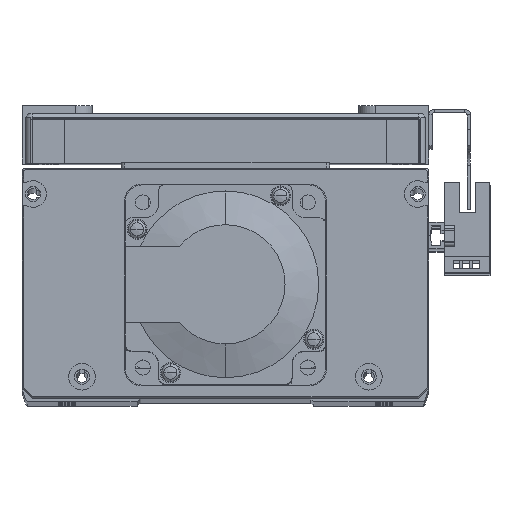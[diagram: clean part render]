
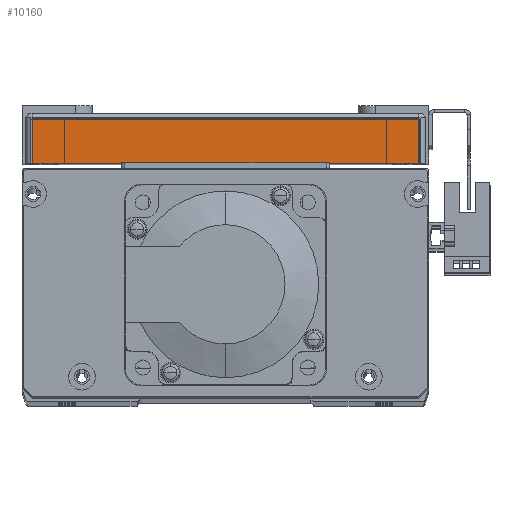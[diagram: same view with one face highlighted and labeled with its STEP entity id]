
A CAD part, top view. The second image highlights one B-rep face of the part: STEP entity #10160.
In plain terms, the highlighted planar face has unit normal (0, 0, 1) as drawn and (1, 0, 0) by its records, which use the part's own axes.
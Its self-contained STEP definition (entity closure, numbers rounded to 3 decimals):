
#6203 = CARTESIAN_POINT ( 'NONE',  ( 82.5, 15., -60. ) ) ;
#6210 = DIRECTION ( 'NONE',  ( 0., 0., 1. ) ) ;
#6242 = DIRECTION ( 'NONE',  ( -1., 0., 0. ) ) ;
#6246 = PLANE ( 'NONE',  #45102 ) ;
#7925 = EDGE_LOOP ( 'NONE', ( #45632, #45610, #45598, #45597 ) ) ;
#10160 = ADVANCED_FACE ( 'NONE', ( #13328 ), #6246, .F. ) ;
#13328 = FACE_OUTER_BOUND ( 'NONE', #7925, .T. ) ;
#19567 = VECTOR ( 'NONE', #20924, 1000. ) ;
#19578 = VECTOR ( 'NONE', #20018, 1000. ) ;
#19604 = LINE ( 'NONE', #20945, #19567 ) ;
#19614 = LINE ( 'NONE', #20005, #19578 ) ;
#19703 = LINE ( 'NONE', #21064, #19714 ) ;
#19714 = VECTOR ( 'NONE', #21068, 1000. ) ;
#19749 = LINE ( 'NONE', #21165, #19789 ) ;
#19789 = VECTOR ( 'NONE', #21143, 1000. ) ;
#20005 = CARTESIAN_POINT ( 'NONE',  ( 82.5, 15., 58. ) ) ;
#20018 = DIRECTION ( 'NONE',  ( 0., -1., 0. ) ) ;
#20924 = DIRECTION ( 'NONE',  ( 0., 0., -1. ) ) ;
#20945 = CARTESIAN_POINT ( 'NONE',  ( 82.5, 0., -60. ) ) ;
#21064 = CARTESIAN_POINT ( 'NONE',  ( 82.5, 15., -58. ) ) ;
#21068 = DIRECTION ( 'NONE',  ( 0., 1., 0. ) ) ;
#21143 = DIRECTION ( 'NONE',  ( 0., 0., 1. ) ) ;
#21165 = CARTESIAN_POINT ( 'NONE',  ( 82.5, 14., 58. ) ) ;
#27987 = CARTESIAN_POINT ( 'NONE',  ( 82.5, 0., 58. ) ) ;
#28165 = CARTESIAN_POINT ( 'NONE',  ( 82.5, 14., -58. ) ) ;
#28182 = CARTESIAN_POINT ( 'NONE',  ( 82.5, 14., 58. ) ) ;
#29283 = CARTESIAN_POINT ( 'NONE',  ( 82.5, 0., -58. ) ) ;
#40693 = VERTEX_POINT ( 'NONE', #27987 ) ;
#40787 = VERTEX_POINT ( 'NONE', #28182 ) ;
#40801 = VERTEX_POINT ( 'NONE', #28165 ) ;
#42508 = VERTEX_POINT ( 'NONE', #29283 ) ;
#45102 = AXIS2_PLACEMENT_3D ( 'NONE', #6203, #6242, #6210 ) ;
#45597 = ORIENTED_EDGE ( 'NONE', *, *, #49281, .T. ) ;
#45598 = ORIENTED_EDGE ( 'NONE', *, *, #49265, .T. ) ;
#45610 = ORIENTED_EDGE ( 'NONE', *, *, #49380, .T. ) ;
#45632 = ORIENTED_EDGE ( 'NONE', *, *, #49349, .T. ) ;
#49265 = EDGE_CURVE ( 'NONE', #40787, #40693, #19614, .T. ) ;
#49281 = EDGE_CURVE ( 'NONE', #40693, #42508, #19604, .T. ) ;
#49349 = EDGE_CURVE ( 'NONE', #42508, #40801, #19703, .T. ) ;
#49380 = EDGE_CURVE ( 'NONE', #40801, #40787, #19749, .T. ) ;
